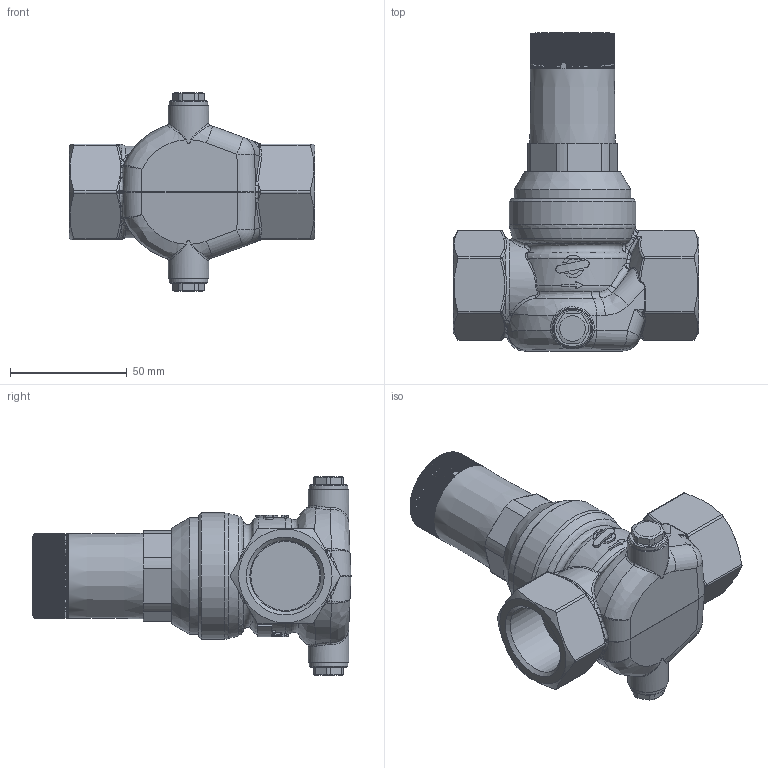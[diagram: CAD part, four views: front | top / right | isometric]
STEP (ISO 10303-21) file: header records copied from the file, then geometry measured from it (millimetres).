
FILE_DESCRIPTION(/* description */ (''),/* implementation_level */ '2;1');
FILE_NAME(/* name */ 'U:/AirCom-Produktdokumentation/Druckregler/RWI/Zeichnungen/CAD-Aircom/3D/B-RWI-08C.step',/* time_stamp */ '2022-07-01T12:45:19+02:00',/* author */ (''),/* organization */ (''),/* preprocessor_version */ 'ST-DEVELOPER v19',/* originating_system */ 'Autodesk Translation Framework v11.7.0.108',/* authorisation */ '');
FILE_SCHEMA (('AUTOMOTIVE_DESIGN { 1 0 10303 214 3 1 1 }'));
Products named in the file (1): 003304_step
Bounding box: 105 x 136.01 x 85 mm (x, y, z)
Volume: 284004.8 mm3; surface area: 40606.3 mm2
Topology: 1 solids, 3 shells, 1432 faces, 3576 edges, 2168 vertices
Faces by surface type: plane 812, cylinder 327, bspline 238, cone 28, torus 14, sphere 13
Full cylindrical faces by diameter (mm): 13 x1, 16.5 x2, 17.4 x2, 24 x1, 28 x1, 28.2 x1, 30.29 x2, 41.4 x1, 50 x1, 54 x1
Entity records: 66145 total; most frequent: CARTESIAN_POINT 33808, ORIENTED_EDGE 7136, DIRECTION 6221, EDGE_CURVE 3568, AXIS2_PLACEMENT_3D 2361, VERTEX_POINT 2168, LINE 1499, VECTOR 1499
